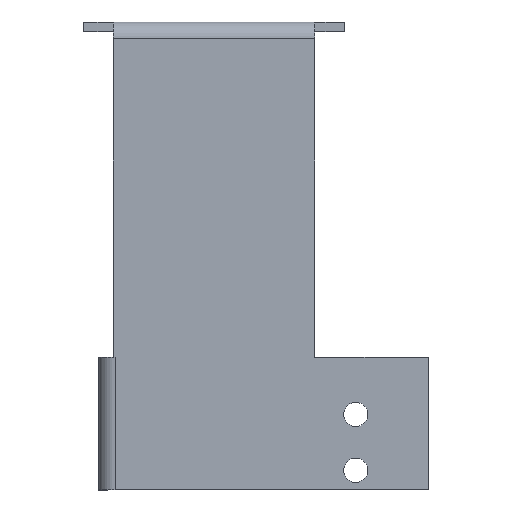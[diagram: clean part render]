
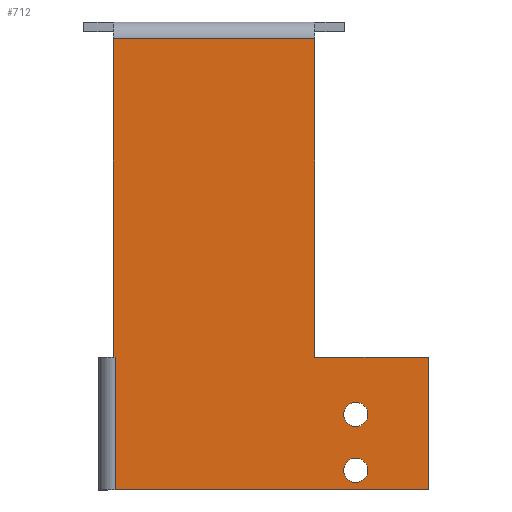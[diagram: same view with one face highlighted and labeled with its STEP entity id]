
A CAD part, top view. The second image highlights one B-rep face of the part: STEP entity #712.
In plain terms, the highlighted planar face has unit normal (0, 0, 1).
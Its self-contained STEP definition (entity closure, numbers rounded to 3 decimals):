
#1=CARTESIAN_POINT('',(38.,33.7,0.));
#2=DIRECTION('',(0.,0.,1.));
#3=DIRECTION('',(1.,0.,0.));
#4=AXIS2_PLACEMENT_3D('',#1,#2,#3);
#6=CARTESIAN_POINT('',(38.,33.7,0.));
#7=DIRECTION('',(0.,0.,1.));
#8=DIRECTION('',(-1.,0.,0.));
#9=AXIS2_PLACEMENT_3D('',#6,#7,#8);
#11=CARTESIAN_POINT('',(38.,18.7,0.));
#12=DIRECTION('',(0.,0.,1.));
#13=DIRECTION('',(1.,0.,0.));
#14=AXIS2_PLACEMENT_3D('',#11,#12,#13);
#16=CARTESIAN_POINT('',(38.,18.7,0.));
#17=DIRECTION('',(0.,0.,1.));
#18=DIRECTION('',(-1.,0.,0.));
#19=AXIS2_PLACEMENT_3D('',#16,#17,#18);
#21=DIRECTION('',(-1.,0.,0.));
#22=VECTOR('',#21,84.);
#23=CARTESIAN_POINT('',(57.5,13.5,0.));
#24=LINE('',#23,#22);
#25=DIRECTION('',(1.,0.,0.));
#26=VECTOR('',#25,0.5);
#27=CARTESIAN_POINT('',(-27.,49.,0.));
#28=LINE('',#27,#26);
#29=DIRECTION('',(0.,1.,0.));
#30=VECTOR('',#29,35.5);
#31=CARTESIAN_POINT('',(57.5,13.5,0.));
#32=LINE('',#31,#30);
#107=DIRECTION('',(0.,-1.,0.));
#108=VECTOR('',#107,35.5);
#109=CARTESIAN_POINT('',(-26.5,49.,0.));
#110=LINE('',#109,#108);
#245=DIRECTION('',(0.,-1.,0.));
#246=VECTOR('',#245,85.5);
#247=CARTESIAN_POINT('',(-27.,134.5,0.));
#248=LINE('',#247,#246);
#435=DIRECTION('',(0.,1.,0.));
#436=VECTOR('',#435,85.5);
#437=CARTESIAN_POINT('',(27.,49.,0.));
#438=LINE('',#437,#436);
#455=DIRECTION('',(1.,0.,0.));
#456=VECTOR('',#455,30.5);
#457=CARTESIAN_POINT('',(27.,49.,0.));
#458=LINE('',#457,#456);
#476=DIRECTION('',(-1.,0.,0.));
#477=VECTOR('',#476,54.);
#478=CARTESIAN_POINT('',(27.,134.5,0.));
#479=LINE('',#478,#477);
#525=CARTESIAN_POINT('',(57.5,49.,0.));
#527=VERTEX_POINT('',#525);
#533=CARTESIAN_POINT('',(-26.5,49.,0.));
#534=VERTEX_POINT('',#533);
#542=CARTESIAN_POINT('',(27.,49.,0.));
#544=VERTEX_POINT('',#542);
#549=CARTESIAN_POINT('',(27.,134.5,0.));
#550=CARTESIAN_POINT('',(-27.,134.5,0.));
#551=VERTEX_POINT('',#549);
#552=VERTEX_POINT('',#550);
#561=CARTESIAN_POINT('',(-27.,49.,0.));
#562=VERTEX_POINT('',#561);
#621=CARTESIAN_POINT('',(57.5,13.5,0.));
#622=CARTESIAN_POINT('',(-26.5,13.5,0.));
#623=VERTEX_POINT('',#621);
#624=VERTEX_POINT('',#622);
#637=CARTESIAN_POINT('',(41.25,33.7,0.));
#638=CARTESIAN_POINT('',(34.75,33.7,0.));
#639=VERTEX_POINT('',#637);
#640=VERTEX_POINT('',#638);
#641=CARTESIAN_POINT('',(41.25,18.7,0.));
#642=CARTESIAN_POINT('',(34.75,18.7,0.));
#643=VERTEX_POINT('',#641);
#644=VERTEX_POINT('',#642);
#677=CARTESIAN_POINT('',(0.,0.,0.));
#678=DIRECTION('',(0.,0.,1.));
#679=DIRECTION('',(1.,0.,0.));
#680=AXIS2_PLACEMENT_3D('',#677,#678,#679);
#681=PLANE('',#680);
#683=ORIENTED_EDGE('',*,*,#682,.T.);
#685=ORIENTED_EDGE('',*,*,#684,.F.);
#687=ORIENTED_EDGE('',*,*,#686,.F.);
#689=ORIENTED_EDGE('',*,*,#688,.F.);
#691=ORIENTED_EDGE('',*,*,#690,.F.);
#693=ORIENTED_EDGE('',*,*,#692,.F.);
#695=ORIENTED_EDGE('',*,*,#694,.T.);
#697=ORIENTED_EDGE('',*,*,#696,.F.);
#698=EDGE_LOOP('',(#683,#685,#687,#689,#691,#693,#695,#697));
#699=FACE_OUTER_BOUND('',#698,.F.);
#701=ORIENTED_EDGE('',*,*,#700,.T.);
#703=ORIENTED_EDGE('',*,*,#702,.T.);
#704=EDGE_LOOP('',(#701,#703));
#705=FACE_BOUND('',#704,.F.);
#707=ORIENTED_EDGE('',*,*,#706,.T.);
#709=ORIENTED_EDGE('',*,*,#708,.T.);
#710=EDGE_LOOP('',(#707,#709));
#711=FACE_BOUND('',#710,.F.);
#712=ADVANCED_FACE('',(#699,#705,#711),#681,.T.);
#5=CIRCLE('',#4,3.25);
#10=CIRCLE('',#9,3.25);
#15=CIRCLE('',#14,3.25);
#20=CIRCLE('',#19,3.25);
#682=EDGE_CURVE('',#623,#624,#24,.T.);
#684=EDGE_CURVE('',#534,#624,#110,.T.);
#686=EDGE_CURVE('',#562,#534,#28,.T.);
#688=EDGE_CURVE('',#552,#562,#248,.T.);
#690=EDGE_CURVE('',#551,#552,#479,.T.);
#692=EDGE_CURVE('',#544,#551,#438,.T.);
#694=EDGE_CURVE('',#544,#527,#458,.T.);
#696=EDGE_CURVE('',#623,#527,#32,.T.);
#700=EDGE_CURVE('',#643,#644,#15,.T.);
#702=EDGE_CURVE('',#644,#643,#20,.T.);
#706=EDGE_CURVE('',#639,#640,#5,.T.);
#708=EDGE_CURVE('',#640,#639,#10,.T.);
